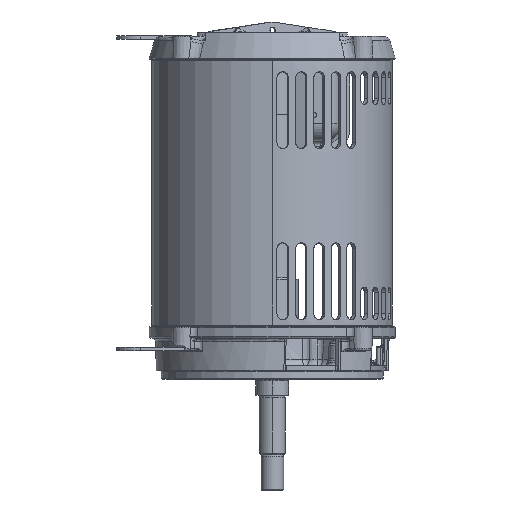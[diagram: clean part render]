
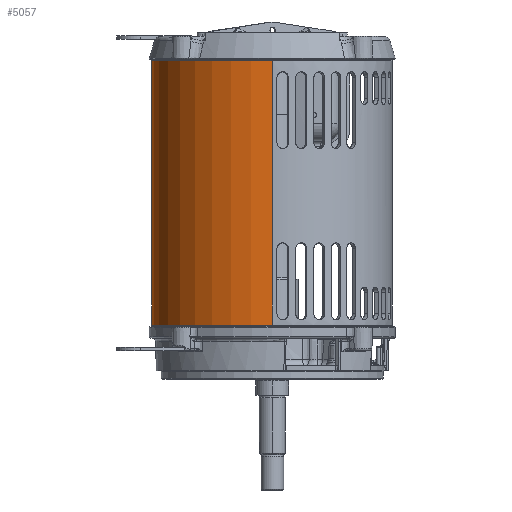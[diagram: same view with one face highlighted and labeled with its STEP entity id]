
A CAD part, left-side view. The second image highlights one B-rep face of the part: STEP entity #5057.
In plain terms, the highlighted cylindrical face has radius 116.967 mm (diameter 233.934 mm), a partial arc.
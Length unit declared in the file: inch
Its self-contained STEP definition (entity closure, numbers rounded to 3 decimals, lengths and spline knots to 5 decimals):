
#1447=DIRECTION('',(0.,0.,1.));
#1448=VECTOR('',#1447,8.17);
#1449=CARTESIAN_POINT('',(-4.605,0.,-3.1085));
#1450=LINE('',#1449,#1448);
#1461=DIRECTION('',(0.,0.,1.));
#1462=VECTOR('',#1461,0.333);
#1463=CARTESIAN_POINT('',(-4.605,0.,-5.0615));
#1464=LINE('',#1463,#1462);
#2803=CARTESIAN_POINT('',(-4.54677,0.73,-3.298));
#2804=CARTESIAN_POINT('',(-4.54466,0.74314,-3.298));
#2805=CARTESIAN_POINT('',(-4.5406,0.76775,
-3.29358));
#2806=CARTESIAN_POINT('',(-4.53469,0.80181,
-3.27421));
#2807=CARTESIAN_POINT('',(-4.53018,0.8268,
-3.24429));
#2808=CARTESIAN_POINT('',(-4.52775,0.83997,
-3.20818));
#2809=CARTESIAN_POINT('',(-4.52772,0.84011,
-3.16944));
#2810=CARTESIAN_POINT('',(-4.53015,0.82697,
-3.13307));
#2811=CARTESIAN_POINT('',(-4.53458,0.80244,
-3.10332));
#2812=CARTESIAN_POINT('',(-4.54055,0.76804,
-3.08345));
#2813=CARTESIAN_POINT('',(-4.54464,0.74326,-3.079));
#2814=CARTESIAN_POINT('',(-4.54677,0.73,-3.079));
#2816=CARTESIAN_POINT('',(-4.54677,0.73,-3.079));
#2817=CARTESIAN_POINT('',(-4.54888,0.71689,-3.079));
#2818=CARTESIAN_POINT('',(-4.55271,0.69229,
-3.08341));
#2819=CARTESIAN_POINT('',(-4.55774,0.6583,
-3.10271));
#2820=CARTESIAN_POINT('',(-4.56126,0.63327,
-3.13259));
#2821=CARTESIAN_POINT('',(-4.56307,0.62003,
-3.16877));
#2822=CARTESIAN_POINT('',(-4.56309,0.61989,
-3.20763));
#2823=CARTESIAN_POINT('',(-4.56129,0.6331,
-3.24406));
#2824=CARTESIAN_POINT('',(-4.55783,0.65768,
-3.27378));
#2825=CARTESIAN_POINT('',(-4.55275,0.69203,
-3.29356));
#2826=CARTESIAN_POINT('',(-4.54889,0.71678,-3.298));
#2827=CARTESIAN_POINT('',(-4.54677,0.73,-3.298));
#2829=CARTESIAN_POINT('',(-4.54385,0.74797,
-3.60763));
#2830=CARTESIAN_POINT('',(-4.54429,0.74526,
-3.60112));
#2831=CARTESIAN_POINT('',(-4.54534,0.73889,
-3.58873));
#2832=CARTESIAN_POINT('',(-4.54735,0.72643,
-3.57182));
#2833=CARTESIAN_POINT('',(-4.54972,0.71147,
-3.5572));
#2834=CARTESIAN_POINT('',(-4.55235,0.69442,
-3.54516));
#2835=CARTESIAN_POINT('',(-4.55518,0.67564,
-3.536));
#2836=CARTESIAN_POINT('',(-4.55711,0.66241,
-3.53198));
#2837=CARTESIAN_POINT('',(-4.5581,0.65557,
-3.53049));
#2839=CARTESIAN_POINT('',(-4.605,0.,-4.7285));
#2840=CARTESIAN_POINT('',(-4.605,0.02793,-4.7285));
#2841=CARTESIAN_POINT('',(-4.6045,0.08361,
-4.72564));
#2842=CARTESIAN_POINT('',(-4.60221,0.16732,
-4.71254));
#2843=CARTESIAN_POINT('',(-4.5985,0.24885,
-4.69085));
#2844=CARTESIAN_POINT('',(-4.59361,0.3267,
-4.66122));
#2845=CARTESIAN_POINT('',(-4.58772,0.4008,
-4.62407));
#2846=CARTESIAN_POINT('',(-4.5807,0.47441,
-4.57712));
#2847=CARTESIAN_POINT('',(-4.57243,0.54842,
-4.51737));
#2848=CARTESIAN_POINT('',(-4.56292,0.62259,
-4.44086));
#2849=CARTESIAN_POINT('',(-4.55246,0.69477,
-4.34151));
#2850=CARTESIAN_POINT('',(-4.54254,0.75653,
-4.2198));
#2851=CARTESIAN_POINT('',(-4.53495,0.80034,
-4.07297));
#2852=CARTESIAN_POINT('',(-4.53221,0.81549,
-3.9128));
#2853=CARTESIAN_POINT('',(-4.53544,0.79756,
-3.75027));
#2854=CARTESIAN_POINT('',(-4.54067,0.76729,
-3.65412));
#2855=CARTESIAN_POINT('',(-4.54385,0.74797,
-3.60763));
#2857=CARTESIAN_POINT('',(0.,0.,-5.0615));
#2858=DIRECTION('',(0.,0.,-1.));
#2859=DIRECTION('',(-1.,0.,0.));
#2860=AXIS2_PLACEMENT_3D('',#2857,#2858,#2859);
#2862=DIRECTION('',(0.,0.,1.));
#2863=VECTOR('',#2862,10.123);
#2864=CARTESIAN_POINT('',(4.605,0.,-5.0615));
#2865=LINE('',#2864,#2863);
#2866=CARTESIAN_POINT('',(0.,0.,5.0615));
#2867=DIRECTION('',(0.,0.,1.));
#2868=DIRECTION('',(1.,0.,0.));
#2869=AXIS2_PLACEMENT_3D('',#2866,#2867,#2868);
#2871=CARTESIAN_POINT('',(-4.59449,0.31087,
-3.17053));
#2872=CARTESIAN_POINT('',(-4.59673,0.27789,
-3.15682));
#2873=CARTESIAN_POINT('',(-4.60056,0.21084,
-3.134));
#2874=CARTESIAN_POINT('',(-4.60419,0.10588,
-3.1131));
#2875=CARTESIAN_POINT('',(-4.605,0.03549,-3.1085));
#2876=CARTESIAN_POINT('',(-4.605,0.,-3.1085));
#2878=CARTESIAN_POINT('',(-4.58862,0.38801,
-3.26293));
#2879=CARTESIAN_POINT('',(-4.58875,0.38651,
-3.25607));
#2880=CARTESIAN_POINT('',(-4.58909,0.38247,
-3.24278));
#2881=CARTESIAN_POINT('',(-4.58985,0.37326,
-3.22394));
#2882=CARTESIAN_POINT('',(-4.59082,0.36117,
-3.20687));
#2883=CARTESIAN_POINT('',(-4.59195,0.34653,
-3.19195));
#2884=CARTESIAN_POINT('',(-4.5932,0.32966,
-3.17955));
#2885=CARTESIAN_POINT('',(-4.59406,0.31734,
-3.17322));
#2886=CARTESIAN_POINT('',(-4.59449,0.31087,
-3.17053));
#2888=CARTESIAN_POINT('',(-4.5581,0.65557,
-3.53049));
#2889=CARTESIAN_POINT('',(-4.56079,0.63686,
-3.52642));
#2890=CARTESIAN_POINT('',(-4.56577,0.60063,
-3.51537));
#2891=CARTESIAN_POINT('',(-4.57223,0.54914,
-3.48998));
#2892=CARTESIAN_POINT('',(-4.57756,0.50258,
-3.45659));
#2893=CARTESIAN_POINT('',(-4.58181,0.46203,
-3.41606));
#2894=CARTESIAN_POINT('',(-4.58504,0.42862,
-3.36952));
#2895=CARTESIAN_POINT('',(-4.58733,0.40317,
-3.31798));
#2896=CARTESIAN_POINT('',(-4.58828,0.39209,
-3.28169));
#2897=CARTESIAN_POINT('',(-4.58862,0.38801,
-3.26293));
#3717=CARTESIAN_POINT('',(-4.605,0.,-5.0615));
#3718=CARTESIAN_POINT('',(4.605,0.,-5.0615));
#3719=VERTEX_POINT('',#3717);
#3720=VERTEX_POINT('',#3718);
#3721=CARTESIAN_POINT('',(4.605,0.,5.0615));
#3722=VERTEX_POINT('',#3721);
#3747=CARTESIAN_POINT('',(-4.605,0.,5.0615));
#3748=VERTEX_POINT('',#3747);
#3749=VERTEX_POINT('',#2803);
#3750=VERTEX_POINT('',#2814);
#3751=VERTEX_POINT('',#2829);
#3752=VERTEX_POINT('',#2837);
#3753=VERTEX_POINT('',#2897);
#3754=VERTEX_POINT('',#2886);
#3755=VERTEX_POINT('',#2876);
#3756=VERTEX_POINT('',#2839);
#5028=CARTESIAN_POINT('',(0.,0.,-5.2655));
#5029=DIRECTION('',(0.,0.,1.));
#5030=DIRECTION('',(1.,0.,0.));
#5031=AXIS2_PLACEMENT_3D('',#5028,#5029,#5030);
#5032=CYLINDRICAL_SURFACE('',#5031,4.605);
#5034=ORIENTED_EDGE('',*,*,#5033,.F.);
#5036=ORIENTED_EDGE('',*,*,#5035,.F.);
#5037=ORIENTED_EDGE('',*,*,#4640,.F.);
#5039=ORIENTED_EDGE('',*,*,#5038,.T.);
#5040=ORIENTED_EDGE('',*,*,#4636,.T.);
#5042=ORIENTED_EDGE('',*,*,#5041,.T.);
#5043=ORIENTED_EDGE('',*,*,#4632,.F.);
#5044=ORIENTED_EDGE('',*,*,#5015,.F.);
#5046=ORIENTED_EDGE('',*,*,#5045,.F.);
#5048=ORIENTED_EDGE('',*,*,#5047,.F.);
#5049=EDGE_LOOP('',(#5034,#5036,#5037,#5039,#5040,#5042,#5043,#5044,#5046,
#5048));
#5050=FACE_OUTER_BOUND('',#5049,.F.);
#5052=ORIENTED_EDGE('',*,*,#5051,.F.);
#5054=ORIENTED_EDGE('',*,*,#5053,.F.);
#5055=EDGE_LOOP('',(#5052,#5054));
#5056=FACE_BOUND('',#5055,.F.);
#5057=ADVANCED_FACE('',(#5050,#5056),#5032,.T.);
#2815=B_SPLINE_CURVE_WITH_KNOTS('',3,(#2803,#2804,#2805,#2806,#2807,#2808,#2809,
#2810,#2811,#2812,#2813,#2814),.UNSPECIFIED.,.F.,.F.,(4,1,1,1,1,1,1,1,1,4),
(0.,0.11111,0.22222,0.33333,0.44444,
0.55556,0.66667,0.77778,0.88889,1.),
.UNSPECIFIED.);
#2828=B_SPLINE_CURVE_WITH_KNOTS('',3,(#2816,#2817,#2818,#2819,#2820,#2821,#2822,
#2823,#2824,#2825,#2826,#2827),.UNSPECIFIED.,.F.,.F.,(4,1,1,1,1,1,1,1,1,4),
(0.,0.11111,0.22222,0.33333,0.44444,
0.55556,0.66667,0.77778,0.88889,1.),
.UNSPECIFIED.);
#2838=B_SPLINE_CURVE_WITH_KNOTS('',3,(#2829,#2830,#2831,#2832,#2833,#2834,#2835,
#2836,#2837),.UNSPECIFIED.,.F.,.F.,(4,1,1,1,1,1,4),(0.,0.16667,
0.33333,0.5,0.66667,0.83333,1.),
.UNSPECIFIED.);
#2856=B_SPLINE_CURVE_WITH_KNOTS('',3,(#2839,#2840,#2841,#2842,#2843,#2844,#2845,
#2846,#2847,#2848,#2849,#2850,#2851,#2852,#2853,#2854,#2855),.UNSPECIFIED.,.F.,
.F.,(4,1,1,1,1,1,1,1,1,1,1,1,1,1,4),(0.,0.07143,0.14286,
0.21429,0.28571,0.35714,0.42857,0.5,
0.57143,0.64286,0.71429,0.78571,
0.85714,0.92857,1.),.UNSPECIFIED.);
#2861=CIRCLE('',#2860,4.605);
#2870=CIRCLE('',#2869,4.605);
#2877=B_SPLINE_CURVE_WITH_KNOTS('',3,(#2871,#2872,#2873,#2874,#2875,#2876),
.UNSPECIFIED.,.F.,.F.,(4,1,1,4),(0.,0.33333,0.66667,1.),
.UNSPECIFIED.);
#2887=B_SPLINE_CURVE_WITH_KNOTS('',3,(#2878,#2879,#2880,#2881,#2882,#2883,#2884,
#2885,#2886),.UNSPECIFIED.,.F.,.F.,(4,1,1,1,1,1,4),(0.,0.16667,
0.33333,0.5,0.66667,0.83333,1.),
.UNSPECIFIED.);
#2898=B_SPLINE_CURVE_WITH_KNOTS('',3,(#2888,#2889,#2890,#2891,#2892,#2893,#2894,
#2895,#2896,#2897),.UNSPECIFIED.,.F.,.F.,(4,1,1,1,1,1,1,4),(0.,
0.14286,0.28571,0.42857,0.57143,
0.71429,0.85714,1.),.UNSPECIFIED.);
#4632=EDGE_CURVE('',#3755,#3748,#1450,.T.);
#4636=EDGE_CURVE('',#3720,#3722,#2865,.T.);
#4640=EDGE_CURVE('',#3719,#3756,#1464,.T.);
#5015=EDGE_CURVE('',#3754,#3755,#2877,.T.);
#5033=EDGE_CURVE('',#3751,#3752,#2838,.T.);
#5035=EDGE_CURVE('',#3756,#3751,#2856,.T.);
#5038=EDGE_CURVE('',#3719,#3720,#2861,.T.);
#5041=EDGE_CURVE('',#3722,#3748,#2870,.T.);
#5045=EDGE_CURVE('',#3753,#3754,#2887,.T.);
#5047=EDGE_CURVE('',#3752,#3753,#2898,.T.);
#5051=EDGE_CURVE('',#3749,#3750,#2815,.T.);
#5053=EDGE_CURVE('',#3750,#3749,#2828,.T.);
